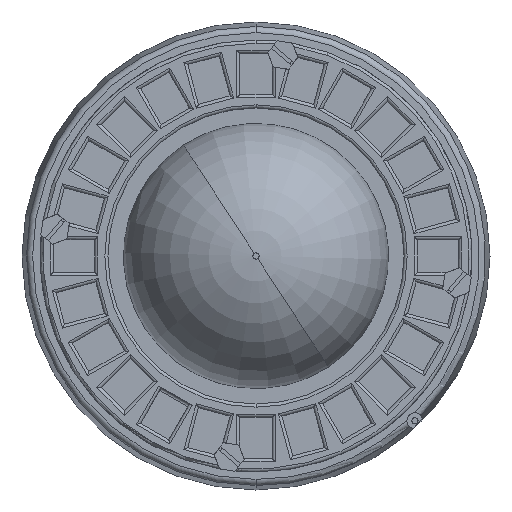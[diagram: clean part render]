
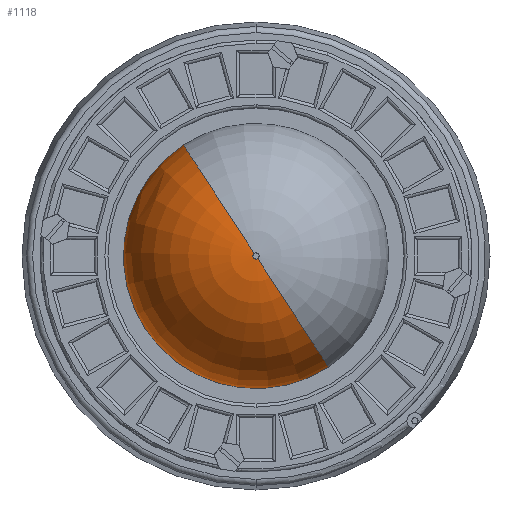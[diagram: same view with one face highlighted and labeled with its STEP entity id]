
A CAD part, front view. The second image highlights one B-rep face of the part: STEP entity #1118.
In plain terms, the highlighted toroidal (fillet/blend) face has major radius 1.27 mm and minor radius 53.34 mm.
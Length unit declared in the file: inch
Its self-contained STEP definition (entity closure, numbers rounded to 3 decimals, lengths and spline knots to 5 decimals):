
#971 = EDGE_CURVE ( 'NONE', #1748, #1657, #10798, .T. ) ;
#1118 = ADVANCED_FACE ( 'NONE', ( #11071 ), #11194, .T. ) ;
#1167 = EDGE_LOOP ( 'NONE', ( #1169, #1673, #1670, #1299 ) ) ;
#1169 = ORIENTED_EDGE ( 'NONE', *, *, #1171, .F. ) ;
#1171 = EDGE_CURVE ( 'NONE', #1192, #1748, #11015, .T. ) ;
#1192 = VERTEX_POINT ( 'NONE', #11005 ) ;
#1299 = ORIENTED_EDGE ( 'NONE', *, *, #971, .F. ) ;
#1657 = VERTEX_POINT ( 'NONE', #11140 ) ;
#1661 = EDGE_CURVE ( 'NONE', #1657, #1697, #11139, .T. ) ;
#1670 = ORIENTED_EDGE ( 'NONE', *, *, #1661, .F. ) ;
#1673 = ORIENTED_EDGE ( 'NONE', *, *, #1675, .T. ) ;
#1675 = EDGE_CURVE ( 'NONE', #1192, #1697, #11133, .T. ) ;
#1697 = VERTEX_POINT ( 'NONE', #11210 ) ;
#1748 = VERTEX_POINT ( 'NONE', #11192 ) ;
#10791 = DIRECTION ( 'NONE',  ( 0., 0., 1. ) ) ;
#10793 = DIRECTION ( 'NONE',  ( -1., 0., 0. ) ) ;
#10796 = CARTESIAN_POINT ( 'NONE',  ( 0., 2.8, 0.05 ) ) ;
#10797 = AXIS2_PLACEMENT_3D ( 'NONE', #10796, #10793, #10791 ) ;
#10798 = CIRCLE ( 'NONE', #10797, 2.1 ) ;
#11005 = CARTESIAN_POINT ( 'NONE',  ( 0., 2.8, -2.15 ) ) ;
#11012 = DIRECTION ( 'NONE',  ( 0., 0., 1. ) ) ;
#11013 = DIRECTION ( 'NONE',  ( 0., -1., 0. ) ) ;
#11014 = AXIS2_PLACEMENT_3D ( 'NONE', #11198, #11013, #11012 ) ;
#11015 = CIRCLE ( 'NONE', #11014, 2.15 ) ;
#11042 = DIRECTION ( 'NONE',  ( 0., 0., -1. ) ) ;
#11043 = DIRECTION ( 'NONE',  ( 1., 0., 0. ) ) ;
#11044 = CARTESIAN_POINT ( 'NONE',  ( 0., 2.8, -0.05 ) ) ;
#11045 = AXIS2_PLACEMENT_3D ( 'NONE', #11044, #11043, #11042 ) ;
#11070 = DIRECTION ( 'NONE',  ( 0., 0., 1. ) ) ;
#11071 = FACE_OUTER_BOUND ( 'NONE', #1167, .T. ) ;
#11131 = DIRECTION ( 'NONE',  ( 0., 1., 0. ) ) ;
#11132 = CARTESIAN_POINT ( 'NONE',  ( 0., 2.8, 0. ) ) ;
#11133 = CIRCLE ( 'NONE', #11045, 2.1 ) ;
#11135 = DIRECTION ( 'NONE',  ( 0., 0., 1. ) ) ;
#11136 = DIRECTION ( 'NONE',  ( 0., 1., 0. ) ) ;
#11137 = CARTESIAN_POINT ( 'NONE',  ( 0., 4.9, 0. ) ) ;
#11138 = AXIS2_PLACEMENT_3D ( 'NONE', #11137, #11136, #11135 ) ;
#11139 = CIRCLE ( 'NONE', #11138, 0.05 ) ;
#11140 = CARTESIAN_POINT ( 'NONE',  ( 0., 4.9, 0.05 ) ) ;
#11192 = CARTESIAN_POINT ( 'NONE',  ( 0., 2.8, 2.15 ) ) ;
#11193 = AXIS2_PLACEMENT_3D ( 'NONE', #11132, #11131, #11070 ) ;
#11194 = TOROIDAL_SURFACE ( 'NONE', #11193, 0.05, 2.1 ) ;
#11198 = CARTESIAN_POINT ( 'NONE',  ( 0., 2.8, 0. ) ) ;
#11210 = CARTESIAN_POINT ( 'NONE',  ( 0., 4.9, -0.05 ) ) ;
